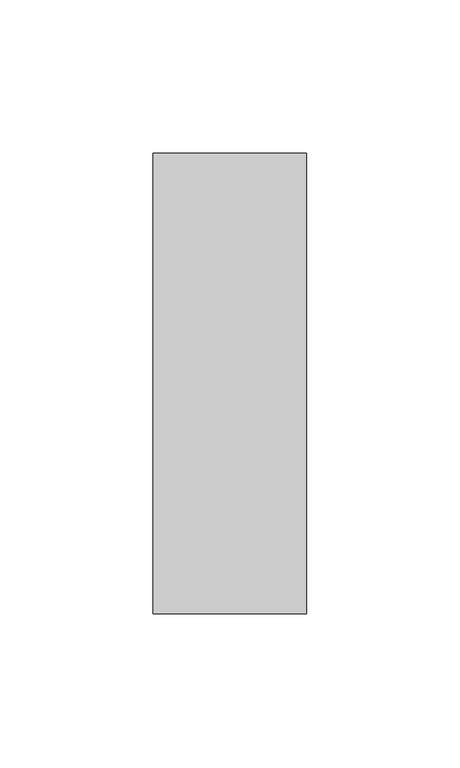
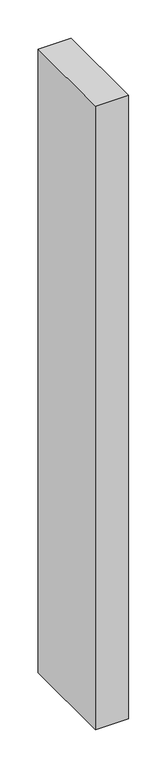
"""IFC4 building model written with IfcOpenShell, lengths in millimetres: member geometry, Прямоугольный импост : 50 x 150 мм."""

from ifc_helpers import new_model, si_unit, frame, origin, place, context, project, spatial, polyline, outline, extrude, source, transform, mapped, element, save


def member_f048c4b1(model_context):
    return source(origin(), model_context, "Body", "SweptSolid", [
        extrude(outline(polyline([(25.0, 75.0), (25.0, -75.0), (-25.0, -75.0), (-25.0, 75.0), (25.0, 75.0)])), frame((0.0, 0.0, -993.4451658), z_axis=(0.0, 0.0, 1.0), x_axis=(1.0, 0.0, 0.0)), (0.0, 0.0, 1.0), 993.4451658),
    ])


if __name__ == "__main__":
    model = new_model("IFC4")
    model_context = context("Model", 3, world=origin())
    ifc_project = project(units=[si_unit("LENGTHUNIT", "METRE", prefix="MILLI")], contexts=[model_context])
    site = spatial("IfcSite", under=ifc_project)
    building = spatial("IfcBuilding", under=site)
    placement = place(None, origin())
    member_shape = member_f048c4b1(model_context)
    element("IfcMember", 1, ObjectType="Прямоугольный импост : 50 x 150 мм", at=placement, inside=building, context=model_context, shape_type="MappedRepresentation", body=[
        mapped(member_shape, transform((0.0, 0.0, 0.0), x_axis=(1.0, 0.0, 0.0), y_axis=(0.0, 1.0, 0.0), z_axis=(0.0, 0.0, 1.0))),
    ])
    save(model, "model.ifc")
